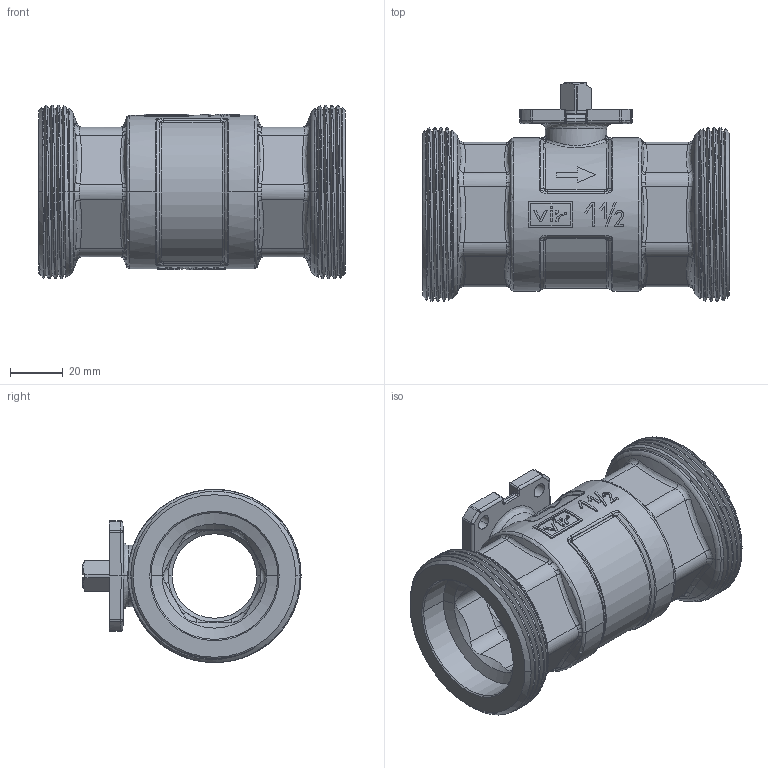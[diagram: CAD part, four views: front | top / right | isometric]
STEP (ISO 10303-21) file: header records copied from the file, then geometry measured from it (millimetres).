
FILE_DESCRIPTION((''),'2;1');
FILE_NAME('H988F0040_2346_SW0001','2015-05-11T',('64ciro'),('Vir spa'),'PRO/ENGINEER BY PARAMETRIC TECHNOLOGY CORPORATION, 2010280','PRO/ENGINEER BY PARAMETRIC TECHNOLOGY CORPORATION, 2010280','');
FILE_SCHEMA(('CONFIG_CONTROL_DESIGN'));
Products named in the file (1): H988F0040_2346_SW0001
Bounding box: 116.2 x 82.6 x 65.59 mm (x, y, z)
Volume: 169476.1 mm3; surface area: 67811 mm2
Topology: 1 solids, 1 shells, 1118 faces, 2858 edges, 1792 vertices
Faces by surface type: plane 558, cylinder 236, bspline 164, cone 84, torus 62, sphere 14
Entity records: 46589 total; most frequent: CARTESIAN_POINT 21875, ORIENTED_EDGE 5716, DIRECTION 4335, EDGE_CURVE 2858, VERTEX_POINT 1792, AXIS2_PLACEMENT_3D 1674, EDGE_LOOP 1182, B_SPLINE_CURVE_WITH_KNOTS 1151
